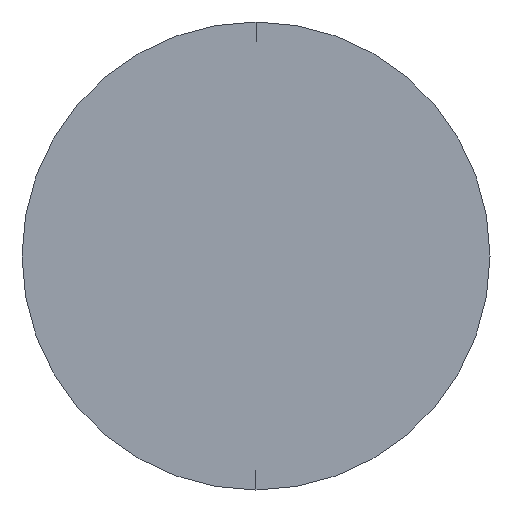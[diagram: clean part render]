
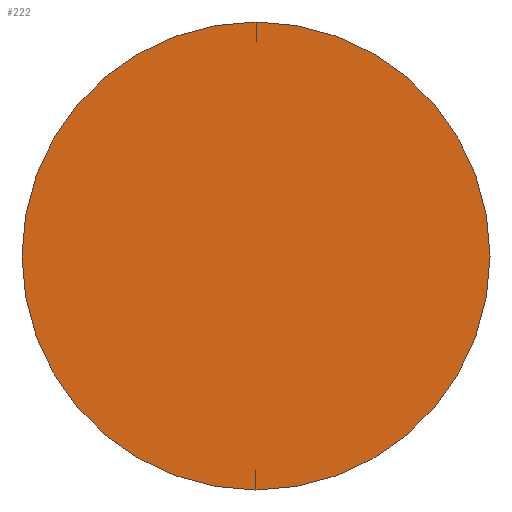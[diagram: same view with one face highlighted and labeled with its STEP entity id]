
A CAD part, left-side view. The second image highlights one B-rep face of the part: STEP entity #222.
In plain terms, the highlighted planar face has unit normal (-1, 0, 0).
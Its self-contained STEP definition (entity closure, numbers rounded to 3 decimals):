
#10 = CARTESIAN_POINT ( 'NONE',  ( 0., 0., 0. ) ) ;
#14 = DIRECTION ( 'NONE',  ( -1., 0., 0. ) ) ;
#16 = CIRCLE ( 'NONE', #33, 1. ) ;
#21 = AXIS2_PLACEMENT_3D ( 'NONE', #10, #31, #190 ) ;
#31 = DIRECTION ( 'NONE',  ( 1., 0., 0. ) ) ;
#33 = AXIS2_PLACEMENT_3D ( 'NONE', #143, #14, #169 ) ;
#48 = VERTEX_POINT ( 'NONE', #292 ) ;
#54 = CARTESIAN_POINT ( 'NONE',  ( 0., 0., -1. ) ) ;
#65 = EDGE_CURVE ( 'NONE', #48, #118, #219, .T. ) ;
#118 = VERTEX_POINT ( 'NONE', #54 ) ;
#130 = FACE_OUTER_BOUND ( 'NONE', #181, .T. ) ;
#139 = PLANE ( 'NONE',  #21 ) ;
#143 = CARTESIAN_POINT ( 'NONE',  ( 0., 0., 0. ) ) ;
#169 = DIRECTION ( 'NONE',  ( 0., 0., 1. ) ) ;
#173 = DIRECTION ( 'NONE',  ( 0., 0., 1. ) ) ;
#174 = ORIENTED_EDGE ( 'NONE', *, *, #65, .T. ) ;
#181 = EDGE_LOOP ( 'NONE', ( #174, #183 ) ) ;
#183 = ORIENTED_EDGE ( 'NONE', *, *, #288, .T. ) ;
#190 = DIRECTION ( 'NONE',  ( 0., 0., -1. ) ) ;
#193 = CARTESIAN_POINT ( 'NONE',  ( 0., 0., 0. ) ) ;
#202 = AXIS2_PLACEMENT_3D ( 'NONE', #193, #261, #173 ) ;
#219 = CIRCLE ( 'NONE', #202, 1. ) ;
#222 = ADVANCED_FACE ( 'NONE', ( #130 ), #139, .F. ) ;
#261 = DIRECTION ( 'NONE',  ( -1., 0., 0. ) ) ;
#288 = EDGE_CURVE ( 'NONE', #118, #48, #16, .T. ) ;
#292 = CARTESIAN_POINT ( 'NONE',  ( 0., 0., 1. ) ) ;
